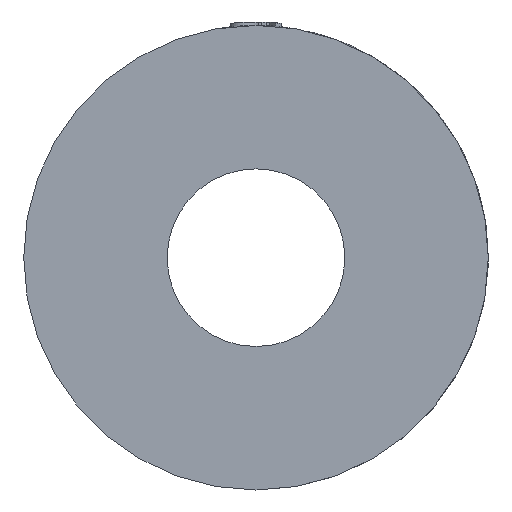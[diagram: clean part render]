
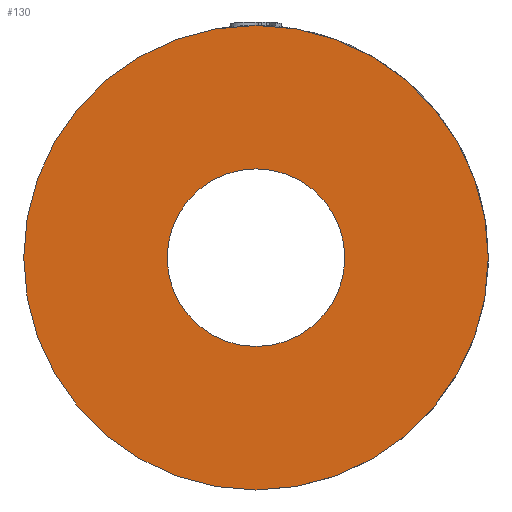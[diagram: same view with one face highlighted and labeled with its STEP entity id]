
A CAD part, left-side view. The second image highlights one B-rep face of the part: STEP entity #130.
In plain terms, the highlighted planar face has unit normal (-1, 0, 0).
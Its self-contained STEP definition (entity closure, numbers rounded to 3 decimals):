
#101 = DIRECTION ( 'NONE',  ( 0., 0., 1. ) ) ;
#130 = ADVANCED_FACE ( 'NONE', ( #2443, #1945 ), #993, .F. ) ;
#192 = CARTESIAN_POINT ( 'NONE',  ( 0., 13., 0. ) ) ;
#197 = CARTESIAN_POINT ( 'NONE',  ( 0., 0., 0. ) ) ;
#200 = CIRCLE ( 'NONE', #1899, 34. ) ;
#211 = DIRECTION ( 'NONE',  ( 0., 0., 1. ) ) ;
#321 = EDGE_CURVE ( 'NONE', #2900, #1246, #200, .T. ) ;
#430 = CARTESIAN_POINT ( 'NONE',  ( 0., 0., -13. ) ) ;
#438 = DIRECTION ( 'NONE',  ( 0., 0., 1. ) ) ;
#485 = EDGE_CURVE ( 'NONE', #1635, #2779, #2548, .T. ) ;
#753 = ORIENTED_EDGE ( 'NONE', *, *, #321, .T. ) ;
#914 = EDGE_LOOP ( 'NONE', ( #2972, #1677 ) ) ;
#920 = EDGE_LOOP ( 'NONE', ( #753, #2214 ) ) ;
#993 = PLANE ( 'NONE',  #2563 ) ;
#1175 = CARTESIAN_POINT ( 'NONE',  ( 0., 0., 0. ) ) ;
#1208 = CARTESIAN_POINT ( 'NONE',  ( 0., 0., 34. ) ) ;
#1229 = CIRCLE ( 'NONE', #1926, 13. ) ;
#1246 = VERTEX_POINT ( 'NONE', #2922 ) ;
#1408 = DIRECTION ( 'NONE',  ( 0., 0., 1. ) ) ;
#1490 = EDGE_CURVE ( 'NONE', #1246, #2900, #2655, .T. ) ;
#1543 = DIRECTION ( 'NONE',  ( -1., 0., 0. ) ) ;
#1635 = VERTEX_POINT ( 'NONE', #2048 ) ;
#1677 = ORIENTED_EDGE ( 'NONE', *, *, #2820, .F. ) ;
#1831 = AXIS2_PLACEMENT_3D ( 'NONE', #2957, #1543, #101 ) ;
#1857 = DIRECTION ( 'NONE',  ( -1., 0., 0. ) ) ;
#1899 = AXIS2_PLACEMENT_3D ( 'NONE', #2110, #2657, #211 ) ;
#1926 = AXIS2_PLACEMENT_3D ( 'NONE', #197, #1857, #438 ) ;
#1945 = FACE_OUTER_BOUND ( 'NONE', #920, .T. ) ;
#2048 = CARTESIAN_POINT ( 'NONE',  ( 0., 0., 13. ) ) ;
#2110 = CARTESIAN_POINT ( 'NONE',  ( 0., 0., 0. ) ) ;
#2130 = DIRECTION ( 'NONE',  ( 1., 0., 0. ) ) ;
#2214 = ORIENTED_EDGE ( 'NONE', *, *, #1490, .T. ) ;
#2443 = FACE_BOUND ( 'NONE', #914, .T. ) ;
#2548 = CIRCLE ( 'NONE', #1831, 13. ) ;
#2563 = AXIS2_PLACEMENT_3D ( 'NONE', #192, #2130, #2610 ) ;
#2610 = DIRECTION ( 'NONE',  ( 0., 0., -1. ) ) ;
#2655 = CIRCLE ( 'NONE', #3007, 34. ) ;
#2657 = DIRECTION ( 'NONE',  ( -1., 0., 0. ) ) ;
#2779 = VERTEX_POINT ( 'NONE', #430 ) ;
#2804 = DIRECTION ( 'NONE',  ( -1., 0., 0. ) ) ;
#2820 = EDGE_CURVE ( 'NONE', #2779, #1635, #1229, .T. ) ;
#2900 = VERTEX_POINT ( 'NONE', #1208 ) ;
#2922 = CARTESIAN_POINT ( 'NONE',  ( 0., 0., -34. ) ) ;
#2957 = CARTESIAN_POINT ( 'NONE',  ( 0., 0., 0. ) ) ;
#2972 = ORIENTED_EDGE ( 'NONE', *, *, #485, .F. ) ;
#3007 = AXIS2_PLACEMENT_3D ( 'NONE', #1175, #2804, #1408 ) ;
